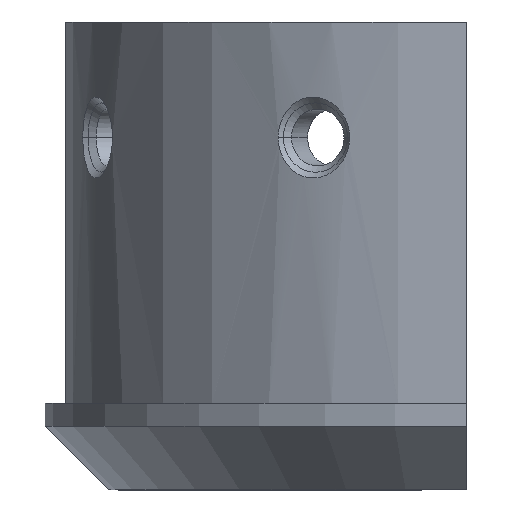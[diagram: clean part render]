
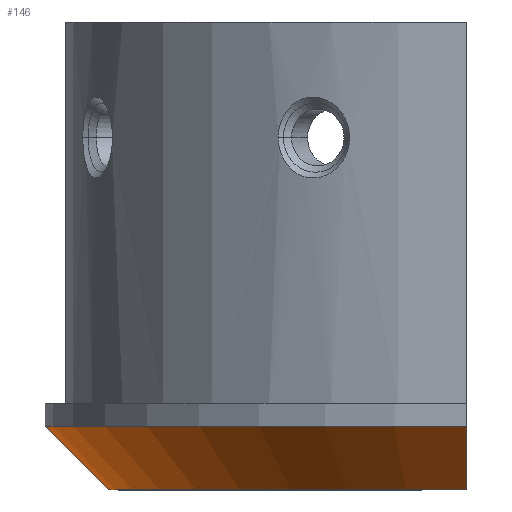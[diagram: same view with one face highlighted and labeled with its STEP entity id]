
A CAD part, left-side view. The second image highlights one B-rep face of the part: STEP entity #146.
In plain terms, the highlighted conical face has half-angle 45 degrees and reference radius 31.012 mm.
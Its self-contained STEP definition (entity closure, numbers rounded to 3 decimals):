
#49=CONICAL_SURFACE('',#1606,31.012,0.785);
#146=ADVANCED_FACE('',(#209),#49,.T.);
#209=FACE_OUTER_BOUND('',#278,.F.);
#278=EDGE_LOOP('',(#383,#384,#385,#386));
#383=ORIENTED_EDGE('',*,*,#1235,.F.);
#384=ORIENTED_EDGE('',*,*,#1197,.F.);
#385=ORIENTED_EDGE('',*,*,#1236,.T.);
#386=ORIENTED_EDGE('',*,*,#1242,.T.);
#1107=CIRCLE('',#1581,36.512);
#1108=CIRCLE('',#1582,31.012);
#1197=EDGE_CURVE('',#1521,#1515,#1351,.T.);
#1235=EDGE_CURVE('',#1515,#1490,#1107,.T.);
#1236=EDGE_CURVE('',#1521,#1489,#1108,.T.);
#1242=EDGE_CURVE('',#1489,#1490,#1362,.T.);
#1351=LINE('',#2054,#1421);
#1362=LINE('',#2325,#1432);
#1421=VECTOR('',#1701,7.778);
#1432=VECTOR('',#1740,7.778);
#1489=VERTEX_POINT('',#1994);
#1490=VERTEX_POINT('',#1995);
#1515=VERTEX_POINT('',#2020);
#1521=VERTEX_POINT('',#2026);
#1581=AXIS2_PLACEMENT_3D('',#2318,#1727,#1728);
#1582=AXIS2_PLACEMENT_3D('',#2319,#1729,#1730);
#1606=AXIS2_PLACEMENT_3D('',#2363,#1798,#1797);
#1701=DIRECTION('',(-0.707,0.,0.707));
#1727=DIRECTION('',(0.,0.,-1.));
#1728=DIRECTION('',(-1.,0.,0.));
#1729=DIRECTION('',(0.,0.,-1.));
#1730=DIRECTION('',(-1.,0.,0.));
#1740=DIRECTION('',(0.653,0.271,0.707));
#1797=DIRECTION('',(-0.924,-0.383,0.));
#1798=DIRECTION('',(0.,0.,1.));
#1994=CARTESIAN_POINT('',(313.027,431.12,-437.336));
#1995=CARTESIAN_POINT('',(318.108,433.225,-431.836));
#2020=CARTESIAN_POINT('',(247.862,419.252,-431.836));
#2026=CARTESIAN_POINT('',(253.362,419.252,-437.336));
#2054=CARTESIAN_POINT('',(253.362,419.252,-437.336));
#2318=CARTESIAN_POINT('',(284.375,419.252,-431.836));
#2319=CARTESIAN_POINT('',(284.375,419.252,-437.336));
#2325=CARTESIAN_POINT('',(313.027,431.12,-437.336));
#2363=CARTESIAN_POINT('',(284.375,419.252,-437.336));
